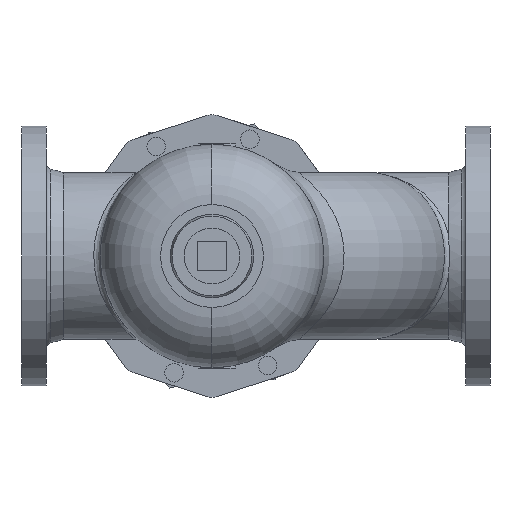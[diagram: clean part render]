
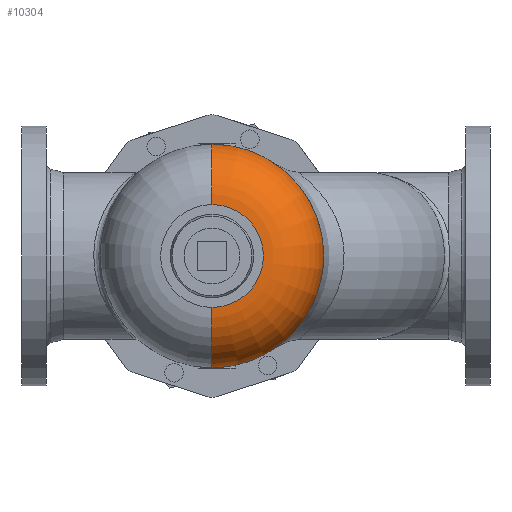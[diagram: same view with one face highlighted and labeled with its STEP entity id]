
A CAD part, front view. The second image highlights one B-rep face of the part: STEP entity #10304.
In plain terms, the highlighted toroidal (fillet/blend) face has major radius 55.5 mm and minor radius 65 mm.
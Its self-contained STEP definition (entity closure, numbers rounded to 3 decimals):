
#26 = AXIS2_PLACEMENT_3D ( 'NONE', #8657, #831, #4317 ) ;
#699 = DIRECTION ( 'NONE',  ( 0., 1., 0. ) ) ;
#831 = DIRECTION ( 'NONE',  ( 0., 1., 0. ) ) ;
#984 = CARTESIAN_POINT ( 'NONE',  ( 0., -306., -120.5 ) ) ;
#1293 = CARTESIAN_POINT ( 'NONE',  ( 0., -306., 0. ) ) ;
#1499 = CARTESIAN_POINT ( 'NONE',  ( 0., -371., 0. ) ) ;
#1722 = DIRECTION ( 'NONE',  ( 0., 0., 1. ) ) ;
#1728 = CARTESIAN_POINT ( 'NONE',  ( 0., -371., -55.5 ) ) ;
#1833 = AXIS2_PLACEMENT_3D ( 'NONE', #1499, #699, #1722 ) ;
#2893 = DIRECTION ( 'NONE',  ( 0., 0., 1. ) ) ;
#2903 = DIRECTION ( 'NONE',  ( 1., 0., 0. ) ) ;
#3010 = DIRECTION ( 'NONE',  ( -1., 0., 0. ) ) ;
#3156 = ORIENTED_EDGE ( 'NONE', *, *, #5496, .F. ) ;
#3264 = CIRCLE ( 'NONE', #5083, 65. ) ;
#3690 = VERTEX_POINT ( 'NONE', #1728 ) ;
#4040 = EDGE_LOOP ( 'NONE', ( #10940, #4321, #7302, #3156 ) ) ;
#4317 = DIRECTION ( 'NONE',  ( 0., 0., 1. ) ) ;
#4321 = ORIENTED_EDGE ( 'NONE', *, *, #6753, .T. ) ;
#4510 = DIRECTION ( 'NONE',  ( 0., 0., -1. ) ) ;
#4946 = CIRCLE ( 'NONE', #26, 120.5 ) ;
#5083 = AXIS2_PLACEMENT_3D ( 'NONE', #5522, #3010, #10901 ) ;
#5091 = EDGE_CURVE ( 'NONE', #7179, #3690, #9678, .T. ) ;
#5496 = EDGE_CURVE ( 'NONE', #7179, #6348, #3264, .T. ) ;
#5522 = CARTESIAN_POINT ( 'NONE',  ( 0., -306., 55.5 ) ) ;
#5524 = CIRCLE ( 'NONE', #5894, 65. ) ;
#5894 = AXIS2_PLACEMENT_3D ( 'NONE', #7249, #2903, #4510 ) ;
#6348 = VERTEX_POINT ( 'NONE', #7097 ) ;
#6753 = EDGE_CURVE ( 'NONE', #3690, #7464, #5524, .T. ) ;
#7097 = CARTESIAN_POINT ( 'NONE',  ( 0., -306., 120.5 ) ) ;
#7179 = VERTEX_POINT ( 'NONE', #7920 ) ;
#7249 = CARTESIAN_POINT ( 'NONE',  ( 0., -306., -55.5 ) ) ;
#7302 = ORIENTED_EDGE ( 'NONE', *, *, #10455, .F. ) ;
#7352 = DIRECTION ( 'NONE',  ( 0., 1., 0. ) ) ;
#7464 = VERTEX_POINT ( 'NONE', #984 ) ;
#7920 = CARTESIAN_POINT ( 'NONE',  ( 0., -371., 55.5 ) ) ;
#8657 = CARTESIAN_POINT ( 'NONE',  ( 0., -306., 0. ) ) ;
#9151 = AXIS2_PLACEMENT_3D ( 'NONE', #1293, #7352, #2893 ) ;
#9678 = CIRCLE ( 'NONE', #1833, 55.5 ) ;
#10055 = TOROIDAL_SURFACE ( 'NONE', #9151, 55.5, 65. ) ;
#10304 = ADVANCED_FACE ( 'NONE', ( #10723 ), #10055, .T. ) ;
#10455 = EDGE_CURVE ( 'NONE', #6348, #7464, #4946, .T. ) ;
#10723 = FACE_OUTER_BOUND ( 'NONE', #4040, .T. ) ;
#10901 = DIRECTION ( 'NONE',  ( 0., 0., 1. ) ) ;
#10940 = ORIENTED_EDGE ( 'NONE', *, *, #5091, .T. ) ;
